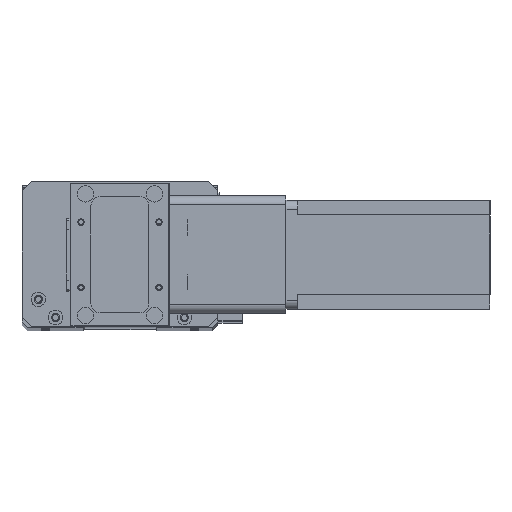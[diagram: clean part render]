
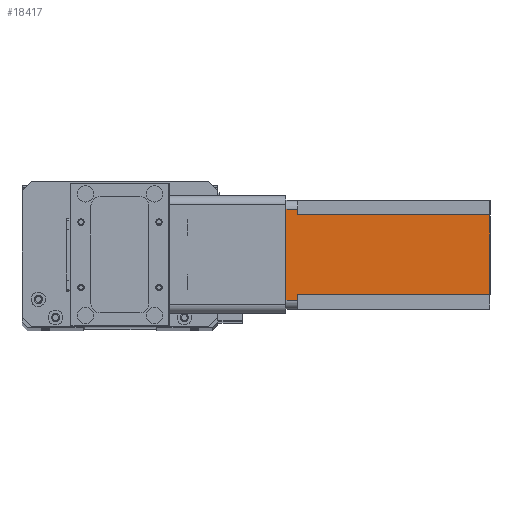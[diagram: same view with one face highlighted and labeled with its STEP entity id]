
A CAD part, top view. The second image highlights one B-rep face of the part: STEP entity #18417.
In plain terms, the highlighted planar face has unit normal (0, 0, 1) as drawn and (0, 1, 0) by its records, which use the part's own axes.
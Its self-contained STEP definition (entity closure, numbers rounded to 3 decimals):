
#195 = VECTOR ( 'NONE', #22937, 1000. ) ;
#1143 = VECTOR ( 'NONE', #2084, 1000. ) ;
#1189 = FACE_OUTER_BOUND ( 'NONE', #17079, .T. ) ;
#1473 = LINE ( 'NONE', #10700, #195 ) ;
#2084 = DIRECTION ( 'NONE',  ( 0., 0., 1. ) ) ;
#2232 = VECTOR ( 'NONE', #24574, 1000. ) ;
#3645 = AXIS2_PLACEMENT_3D ( 'NONE', #6585, #8643, #23044 ) ;
#4523 = PLANE ( 'NONE',  #3645 ) ;
#4746 = VECTOR ( 'NONE', #13212, 1000. ) ;
#5390 = EDGE_CURVE ( 'NONE', #18571, #20947, #19294, .T. ) ;
#5773 = ORIENTED_EDGE ( 'NONE', *, *, #24070, .T. ) ;
#6585 = CARTESIAN_POINT ( 'NONE',  ( 0., 60., -112.5 ) ) ;
#6649 = LINE ( 'NONE', #9877, #16662 ) ;
#7371 = ORIENTED_EDGE ( 'NONE', *, *, #11964, .T. ) ;
#7503 = CARTESIAN_POINT ( 'NONE',  ( 8., 60., -112.5 ) ) ;
#7520 = ORIENTED_EDGE ( 'NONE', *, *, #12640, .F. ) ;
#7722 = ORIENTED_EDGE ( 'NONE', *, *, #23767, .F. ) ;
#8643 = DIRECTION ( 'NONE',  ( 0., 1., 0. ) ) ;
#8923 = VECTOR ( 'NONE', #12682, 1000. ) ;
#9535 = VECTOR ( 'NONE', #20895, 1000. ) ;
#9789 = CARTESIAN_POINT ( 'NONE',  ( 52., 60., -112.5 ) ) ;
#9844 = VECTOR ( 'NONE', #15340, 1000. ) ;
#9877 = CARTESIAN_POINT ( 'NONE',  ( 8., 60., -112.5 ) ) ;
#10177 = LINE ( 'NONE', #18815, #9535 ) ;
#10193 = CARTESIAN_POINT ( 'NONE',  ( 8., 60., -6.5 ) ) ;
#10588 = CARTESIAN_POINT ( 'NONE',  ( 52., 60., -112.5 ) ) ;
#10700 = CARTESIAN_POINT ( 'NONE',  ( 0., 60., 0. ) ) ;
#10825 = CARTESIAN_POINT ( 'NONE',  ( 55., 60., -6.5 ) ) ;
#10911 = VERTEX_POINT ( 'NONE', #19927 ) ;
#11049 = VERTEX_POINT ( 'NONE', #12115 ) ;
#11128 = CARTESIAN_POINT ( 'NONE',  ( 0., 60., -112.5 ) ) ;
#11182 = CARTESIAN_POINT ( 'NONE',  ( 52., 60., -6.5 ) ) ;
#11960 = DIRECTION ( 'NONE',  ( 0., 0., -1. ) ) ;
#11964 = EDGE_CURVE ( 'NONE', #20947, #18421, #18167, .T. ) ;
#12115 = CARTESIAN_POINT ( 'NONE',  ( 55., 60., 0. ) ) ;
#12640 = EDGE_CURVE ( 'NONE', #11049, #18421, #1473, .T. ) ;
#12682 = DIRECTION ( 'NONE',  ( 0., 0., 1. ) ) ;
#12782 = CARTESIAN_POINT ( 'NONE',  ( 5., 60., 0. ) ) ;
#13212 = DIRECTION ( 'NONE',  ( -1., 0., 0. ) ) ;
#14195 = ORIENTED_EDGE ( 'NONE', *, *, #24726, .F. ) ;
#14963 = CARTESIAN_POINT ( 'NONE',  ( 5., 60., -6.5 ) ) ;
#15340 = DIRECTION ( 'NONE',  ( 1., 0., 0. ) ) ;
#15694 = VERTEX_POINT ( 'NONE', #9789 ) ;
#16621 = ORIENTED_EDGE ( 'NONE', *, *, #5390, .T. ) ;
#16662 = VECTOR ( 'NONE', #11960, 1000. ) ;
#17079 = EDGE_LOOP ( 'NONE', ( #7520, #23453, #14195, #25288, #5773, #7722, #16621, #7371 ) ) ;
#17542 = CARTESIAN_POINT ( 'NONE',  ( 8., 60., -6.5 ) ) ;
#18048 = EDGE_CURVE ( 'NONE', #15694, #10911, #25329, .T. ) ;
#18167 = LINE ( 'NONE', #22699, #1143 ) ;
#18417 = ADVANCED_FACE ( 'NONE', ( #1189 ), #4523, .T. ) ;
#18421 = VERTEX_POINT ( 'NONE', #12782 ) ;
#18571 = VERTEX_POINT ( 'NONE', #17542 ) ;
#18815 = CARTESIAN_POINT ( 'NONE',  ( 55., 60., -112.5 ) ) ;
#19294 = LINE ( 'NONE', #10193, #2232 ) ;
#19667 = VERTEX_POINT ( 'NONE', #10825 ) ;
#19927 = CARTESIAN_POINT ( 'NONE',  ( 52., 60., -6.5 ) ) ;
#20589 = VERTEX_POINT ( 'NONE', #7503 ) ;
#20775 = LINE ( 'NONE', #11182, #9844 ) ;
#20895 = DIRECTION ( 'NONE',  ( 0., 0., -1. ) ) ;
#20947 = VERTEX_POINT ( 'NONE', #14963 ) ;
#22699 = CARTESIAN_POINT ( 'NONE',  ( 5., 60., -112.5 ) ) ;
#22937 = DIRECTION ( 'NONE',  ( -1., 0., 0. ) ) ;
#23044 = DIRECTION ( 'NONE',  ( 0., 0., 1. ) ) ;
#23453 = ORIENTED_EDGE ( 'NONE', *, *, #24553, .T. ) ;
#23767 = EDGE_CURVE ( 'NONE', #18571, #20589, #6649, .T. ) ;
#24070 = EDGE_CURVE ( 'NONE', #15694, #20589, #26608, .T. ) ;
#24553 = EDGE_CURVE ( 'NONE', #11049, #19667, #10177, .T. ) ;
#24574 = DIRECTION ( 'NONE',  ( -1., 0., 0. ) ) ;
#24726 = EDGE_CURVE ( 'NONE', #10911, #19667, #20775, .T. ) ;
#25288 = ORIENTED_EDGE ( 'NONE', *, *, #18048, .F. ) ;
#25329 = LINE ( 'NONE', #10588, #8923 ) ;
#26608 = LINE ( 'NONE', #11128, #4746 ) ;
